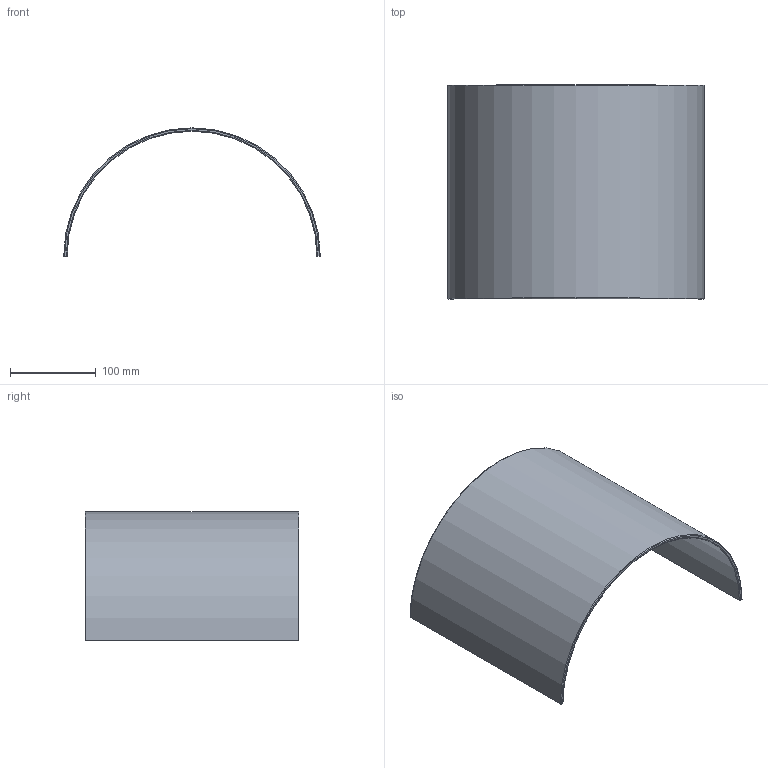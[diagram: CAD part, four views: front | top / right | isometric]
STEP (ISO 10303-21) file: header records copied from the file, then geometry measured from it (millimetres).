
FILE_DESCRIPTION (( 'STEP AP203' ), '1' );
FILE_NAME ('WL.C30.00.STEP', '2026-03-02T11:06:59', ( '' ), ( '' ), 'SwSTEP 2.0', 'SolidWorks 2013', '' );
FILE_SCHEMA (( 'CONFIG_CONTROL_DESIGN' ));
Length unit declared in the file: millimetre
Products named in the file (1): WL.C30.00
Bounding box: 300 x 250 x 150 mm (x, y, z)
Volume: 464556.6 mm3; surface area: 237397.5 mm2
Topology: 1 solids, 1 shells, 14 faces, 36 edges, 24 vertices
Faces by surface type: torus 8, plane 4, cylinder 2
Entity records: 525 total; most frequent: DIRECTION 94, CARTESIAN_POINT 75, ORIENTED_EDGE 72, AXIS2_PLACEMENT_3D 43, EDGE_CURVE 36, CIRCLE 28, VERTEX_POINT 24, ADVANCED_FACE 14
